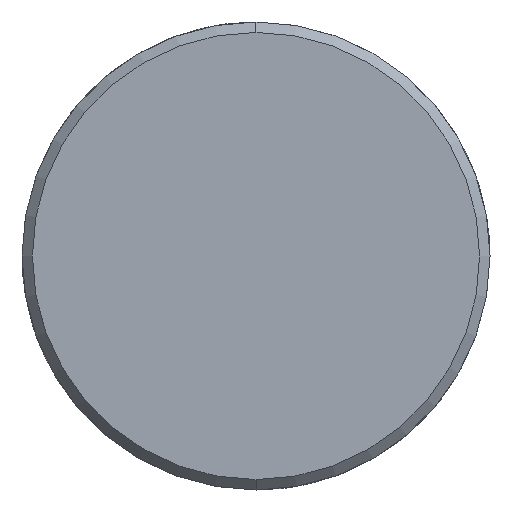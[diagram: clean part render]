
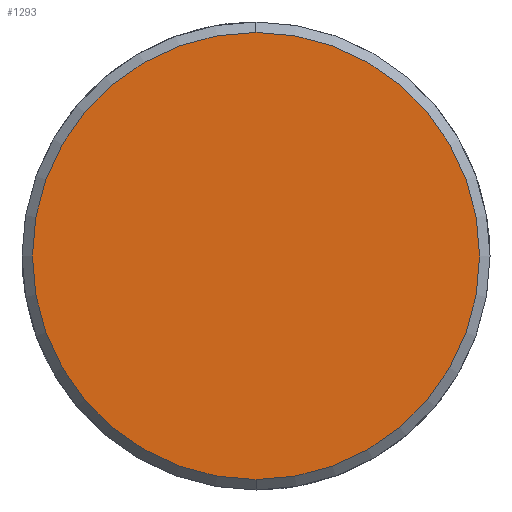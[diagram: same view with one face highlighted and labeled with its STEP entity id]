
A CAD part, left-side view. The second image highlights one B-rep face of the part: STEP entity #1293.
In plain terms, the highlighted planar face has unit normal (-1, 0, 0).
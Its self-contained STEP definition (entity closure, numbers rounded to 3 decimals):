
#1225=CARTESIAN_POINT('Vertex',(-7.,0.,-21.5)) ;
#1228=CARTESIAN_POINT('Axis2P3D Location',(-7.,0.,0.)) ;
#1232=CARTESIAN_POINT('Vertex',(-7.,21.5,0.)) ;
#1235=CARTESIAN_POINT('Axis2P3D Location',(-7.,0.,0.)) ;
#1239=CARTESIAN_POINT('Vertex',(-7.,0.,21.5)) ;
#1261=CARTESIAN_POINT('Axis2P3D Location',(-7.,0.,0.)) ;
#1265=CARTESIAN_POINT('Vertex',(-7.,-21.5,0.)) ;
#1268=CARTESIAN_POINT('Axis2P3D Location',(-7.,0.,0.)) ;
#1282=CARTESIAN_POINT('Axis2P3D Location',(-7.,0.,0.)) ;
#1229=DIRECTION('Axis2P3D Direction',(1.,0.,-0.)) ;
#1236=DIRECTION('Axis2P3D Direction',(1.,0.,-0.)) ;
#1262=DIRECTION('Axis2P3D Direction',(1.,0.,-0.)) ;
#1269=DIRECTION('Axis2P3D Direction',(1.,0.,-0.)) ;
#1283=DIRECTION('Axis2P3D Direction',(1.,0.,-0.)) ;
#1284=DIRECTION('Axis2P3D XDirection',(-0.,0.,-1.)) ;
#1230=AXIS2_PLACEMENT_3D('Circle Axis2P3D',#1228,#1229,$) ;
#1237=AXIS2_PLACEMENT_3D('Circle Axis2P3D',#1235,#1236,$) ;
#1263=AXIS2_PLACEMENT_3D('Circle Axis2P3D',#1261,#1262,$) ;
#1270=AXIS2_PLACEMENT_3D('Circle Axis2P3D',#1268,#1269,$) ;
#1285=AXIS2_PLACEMENT_3D('Plane Axis2P3D',#1282,#1283,#1284) ;
#1288=ORIENTED_EDGE('',*,*,#1234,.F.) ;
#1289=ORIENTED_EDGE('',*,*,#1272,.F.) ;
#1290=ORIENTED_EDGE('',*,*,#1267,.F.) ;
#1291=ORIENTED_EDGE('',*,*,#1241,.F.) ;
#1293=ADVANCED_FACE('351-32X86X200',(#1292),#1286,.F.) ;
#1231=CIRCLE('generated circle',#1230,21.5) ;
#1238=CIRCLE('generated circle',#1237,21.5) ;
#1264=CIRCLE('generated circle',#1263,21.5) ;
#1271=CIRCLE('generated circle',#1270,21.5) ;
#1234=EDGE_CURVE('',#1226,#1233,#1231,.T.) ;
#1241=EDGE_CURVE('',#1233,#1240,#1238,.T.) ;
#1267=EDGE_CURVE('',#1240,#1266,#1264,.T.) ;
#1272=EDGE_CURVE('',#1266,#1226,#1271,.T.) ;
#1287=EDGE_LOOP('',(#1288,#1289,#1290,#1291)) ;
#1292=FACE_OUTER_BOUND('',#1287,.T.) ;
#1286=PLANE('Plane',#1285) ;
#1226=VERTEX_POINT('',#1225) ;
#1233=VERTEX_POINT('',#1232) ;
#1240=VERTEX_POINT('',#1239) ;
#1266=VERTEX_POINT('',#1265) ;
